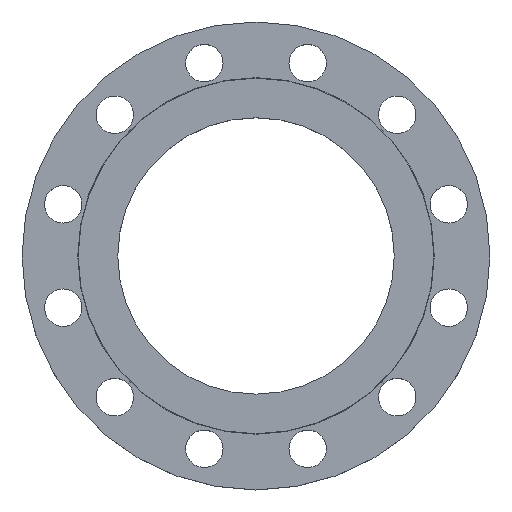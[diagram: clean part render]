
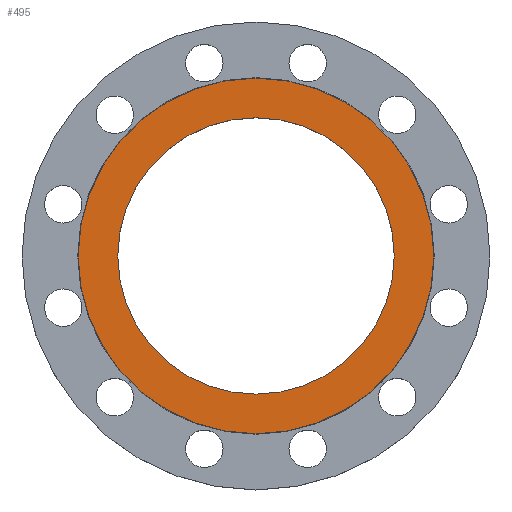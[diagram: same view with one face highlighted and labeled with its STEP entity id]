
A CAD part, top view. The second image highlights one B-rep face of the part: STEP entity #495.
In plain terms, the highlighted planar face has unit normal (0, 0, 1).
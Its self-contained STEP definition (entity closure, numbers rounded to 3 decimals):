
#81 = CIRCLE ( 'NONE', #1056, 142.5 ) ;
#89 = DIRECTION ( 'NONE',  ( 1., 0., 0. ) ) ;
#91 = DIRECTION ( 'NONE',  ( 0., 0., 1. ) ) ;
#92 = CARTESIAN_POINT ( 'NONE',  ( 0., 0., 0. ) ) ;
#93 = PLANE ( 'NONE',  #974 ) ;
#94 = FACE_OUTER_BOUND ( 'NONE', #661, .T. ) ;
#95 = FACE_BOUND ( 'NONE', #653, .T. ) ;
#141 = AXIS2_PLACEMENT_3D ( 'NONE', #1060, #229, #636 ) ;
#229 = DIRECTION ( 'NONE',  ( 0., 0., 1. ) ) ;
#230 = EDGE_CURVE ( 'NONE', #846, #664, #997, .T. ) ;
#237 = DIRECTION ( 'NONE',  ( -1., 0., 0. ) ) ;
#238 = DIRECTION ( 'NONE',  ( 0., 0., -1. ) ) ;
#239 = CARTESIAN_POINT ( 'NONE',  ( 0., 0., 0. ) ) ;
#252 = DIRECTION ( 'NONE',  ( -1., 0., 0. ) ) ;
#253 = DIRECTION ( 'NONE',  ( 0., 0., -1. ) ) ;
#254 = CARTESIAN_POINT ( 'NONE',  ( 0., 0., 0. ) ) ;
#281 = DIRECTION ( 'NONE',  ( 1., 0., 0. ) ) ;
#283 = DIRECTION ( 'NONE',  ( 0., 0., 1. ) ) ;
#284 = CARTESIAN_POINT ( 'NONE',  ( 0., 0., 0. ) ) ;
#307 = EDGE_CURVE ( 'NONE', #932, #927, #81, .T. ) ;
#318 = EDGE_CURVE ( 'NONE', #927, #932, #993, .T. ) ;
#476 = AXIS2_PLACEMENT_3D ( 'NONE', #239, #238, #237 ) ;
#495 = ADVANCED_FACE ( 'NONE', ( #95, #94 ), #93, .T. ) ;
#539 = ORIENTED_EDGE ( 'NONE', *, *, #230, .F. ) ;
#541 = ORIENTED_EDGE ( 'NONE', *, *, #1233, .F. ) ;
#544 = ORIENTED_EDGE ( 'NONE', *, *, #307, .F. ) ;
#548 = ORIENTED_EDGE ( 'NONE', *, *, #318, .F. ) ;
#569 = CARTESIAN_POINT ( 'NONE',  ( -142.5, 0., 0. ) ) ;
#636 = DIRECTION ( 'NONE',  ( 1., 0., 0. ) ) ;
#653 = EDGE_LOOP ( 'NONE', ( #539, #541 ) ) ;
#660 = CARTESIAN_POINT ( 'NONE',  ( -110.75, 0., 0. ) ) ;
#661 = EDGE_LOOP ( 'NONE', ( #544, #548 ) ) ;
#664 = VERTEX_POINT ( 'NONE', #660 ) ;
#826 = AXIS2_PLACEMENT_3D ( 'NONE', #284, #283, #281 ) ;
#846 = VERTEX_POINT ( 'NONE', #1098 ) ;
#927 = VERTEX_POINT ( 'NONE', #992 ) ;
#932 = VERTEX_POINT ( 'NONE', #569 ) ;
#974 = AXIS2_PLACEMENT_3D ( 'NONE', #92, #91, #89 ) ;
#992 = CARTESIAN_POINT ( 'NONE',  ( 142.5, 0., 0. ) ) ;
#993 = CIRCLE ( 'NONE', #476, 142.5 ) ;
#997 = CIRCLE ( 'NONE', #826, 110.75 ) ;
#1056 = AXIS2_PLACEMENT_3D ( 'NONE', #254, #253, #252 ) ;
#1060 = CARTESIAN_POINT ( 'NONE',  ( 0., 0., 0. ) ) ;
#1098 = CARTESIAN_POINT ( 'NONE',  ( 110.75, 0., 0. ) ) ;
#1156 = CIRCLE ( 'NONE', #141, 110.75 ) ;
#1233 = EDGE_CURVE ( 'NONE', #664, #846, #1156, .T. ) ;
